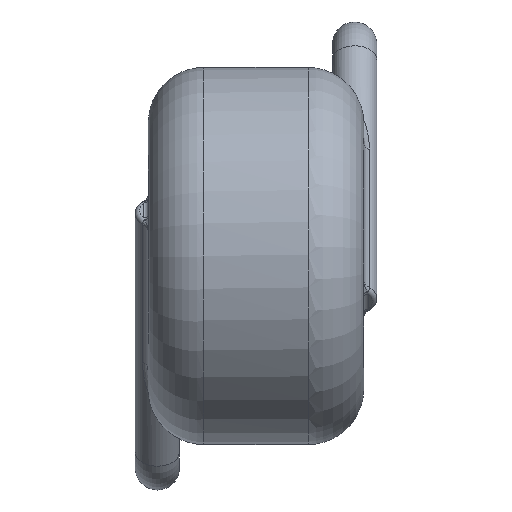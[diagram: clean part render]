
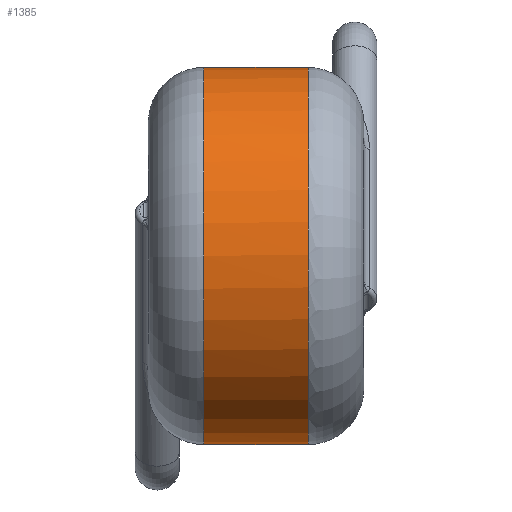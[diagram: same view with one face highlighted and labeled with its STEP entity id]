
A CAD part, left-side view. The second image highlights one B-rep face of the part: STEP entity #1385.
In plain terms, the highlighted cylindrical face has radius 8.5 mm (diameter 17 mm), a full revolution.
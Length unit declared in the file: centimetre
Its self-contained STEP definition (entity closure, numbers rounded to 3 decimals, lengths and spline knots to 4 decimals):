
#955=CARTESIAN_POINT('',(0.85,0.64,0.));
#956=VERTEX_POINT('',#955);
#957=CARTESIAN_POINT('',(0.0,0.64,0.0));
#958=DIRECTION('',(0.0,1.0,0.0));
#959=DIRECTION('',(-1.0,0.0,0.0));
#960=AXIS2_PLACEMENT_3D('',#957,#958,#959);
#961=CIRCLE('',#960,0.85);
#962=EDGE_CURVE('',#956,#956,#961,.T.);
#1276=CARTESIAN_POINT('',(0.85,0.169,0.));
#1277=VERTEX_POINT('',#1276);
#1278=CARTESIAN_POINT('',(0.0,0.169,0.0));
#1279=DIRECTION('',(0.0,-1.0,0.0));
#1280=DIRECTION('',(-1.0,0.0,0.0));
#1281=AXIS2_PLACEMENT_3D('',#1278,#1279,#1280);
#1282=CIRCLE('',#1281,0.85);
#1283=EDGE_CURVE('',#1277,#1277,#1282,.T.);
#1374=CARTESIAN_POINT('',(0.0,0.4045,0.0));
#1375=DIRECTION('',(0.0,1.0,0.0));
#1376=DIRECTION('',(-1.0,0.0,0.0));
#1377=AXIS2_PLACEMENT_3D('',#1374,#1375,#1376);
#1378=CYLINDRICAL_SURFACE('',#1377,0.85);
#1379=ORIENTED_EDGE('',*,*,#962,.F.);
#1380=EDGE_LOOP('',(#1379));
#1381=FACE_OUTER_BOUND('',#1380,.T.);
#1382=ORIENTED_EDGE('',*,*,#1283,.F.);
#1383=EDGE_LOOP('',(#1382));
#1384=FACE_BOUND('',#1383,.T.);
#1385=ADVANCED_FACE('',(#1381,#1384),#1378,.T.);
